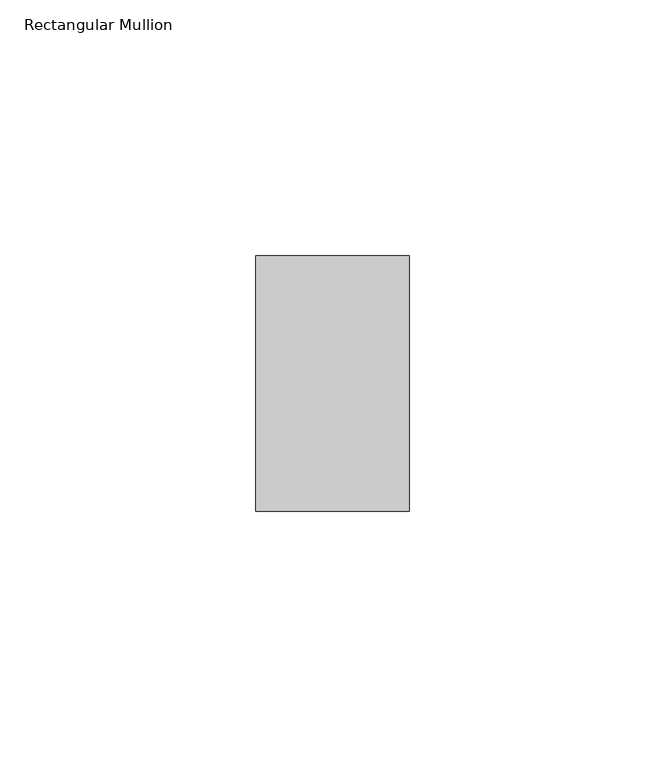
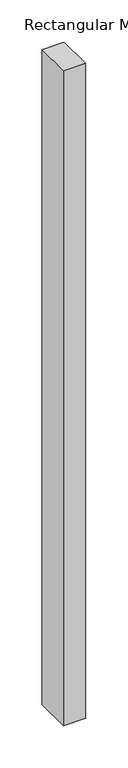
"""IFC4 building model written with IfcOpenShell, lengths in millimetres: member geometry, Rectangular Mullion : ARQ_TV_MULL_50x30mm."""

from ifc_helpers import new_model, si_unit, frame, origin, place, context, project, spatial, polyline, outline, extrude, source, transform, mapped, element, save


def rectangular_mullion_367cbfe8(model_context):
    return source(origin(), model_context, "Body", "SweptSolid", [
        extrude(outline(polyline([(0.0, 25.0), (0.0, -25.0), (-30.0, -25.0), (-30.0, 25.0), (0.0, 25.0)])), frame((0.0, 0.0, -942.6074646), z_axis=(0.0, 0.0, 1.0), x_axis=(1.0, 0.0, 0.0)), (0.0, 0.0, 1.0), 942.6074646),
    ])


if __name__ == "__main__":
    model = new_model("IFC4")
    model_context = context("Model", 3, world=origin())
    ifc_project = project(units=[si_unit("LENGTHUNIT", "METRE", prefix="MILLI")], contexts=[model_context])
    site = spatial("IfcSite", under=ifc_project)
    building = spatial("IfcBuilding", under=site)
    placement = place(None, origin())
    rectangular_mullion_shape = rectangular_mullion_367cbfe8(model_context)
    element("IfcMember", 1, ObjectType="Rectangular Mullion : ARQ_TV_MULL_50x30mm", at=placement, inside=building, context=model_context, shape_type="MappedRepresentation", body=[
        mapped(rectangular_mullion_shape, transform((0.0, 0.0, 0.0), x_axis=(1.0, 0.0, 0.0), y_axis=(0.0, 1.0, 0.0), z_axis=(0.0, 0.0, 1.0))),
    ])
    save(model, "model.ifc")
